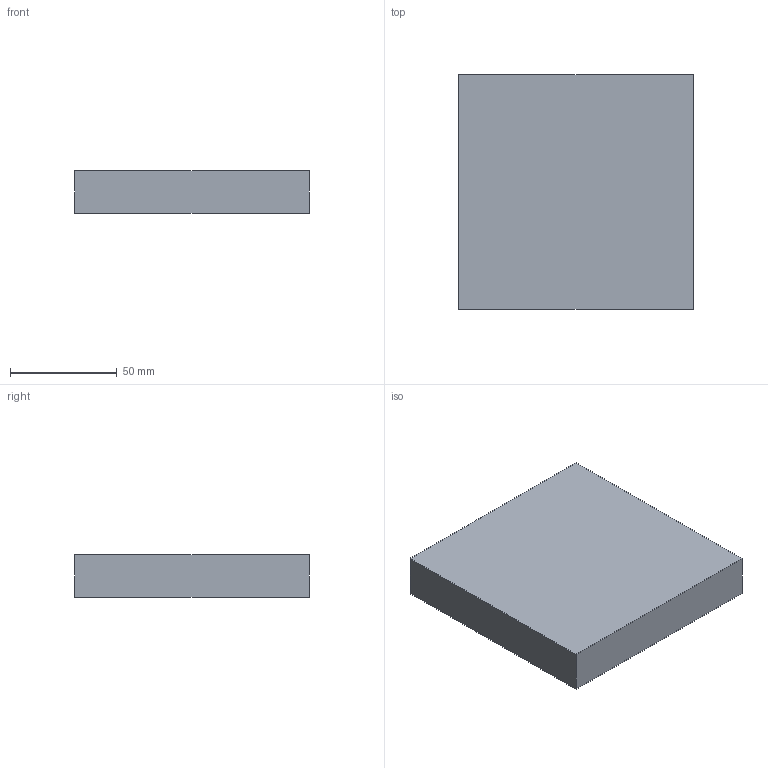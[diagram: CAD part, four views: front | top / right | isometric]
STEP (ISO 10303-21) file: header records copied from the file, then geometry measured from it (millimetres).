
FILE_DESCRIPTION(('Open CASCADE Model'),'2;1');
FILE_NAME('Open CASCADE Shape Model','2026-10-15T15:10:04',('Author'),( 'Open CASCADE'),'Open CASCADE STEP processor 8.0','Open CASCADE 8.0' ,'Unknown');
FILE_SCHEMA(('AUTOMOTIVE_DESIGN { 1 0 10303 214 1 1 1 1 }'));
Length unit declared in the file: millimetre
Products named in the file (1): U05_BASE_POSTE_110x110x20_P05 77
Bounding box: 110 x 110 x 20 mm (x, y, z)
Volume: 242000 mm3; surface area: 33000 mm2
Topology: 1 solids, 1 shells, 6 faces, 12 edges, 8 vertices
Faces by surface type: plane 6
Entity records: 322 total; most frequent: CARTESIAN_POINT 51, DIRECTION 50, LINE 36, VECTOR 36, ORIENTED_EDGE 24, PCURVE 24, DEFINITIONAL_REPRESENTATION 24, EDGE_CURVE 12
